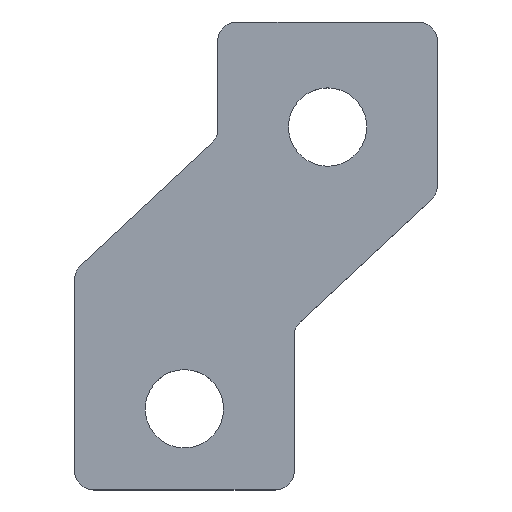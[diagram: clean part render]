
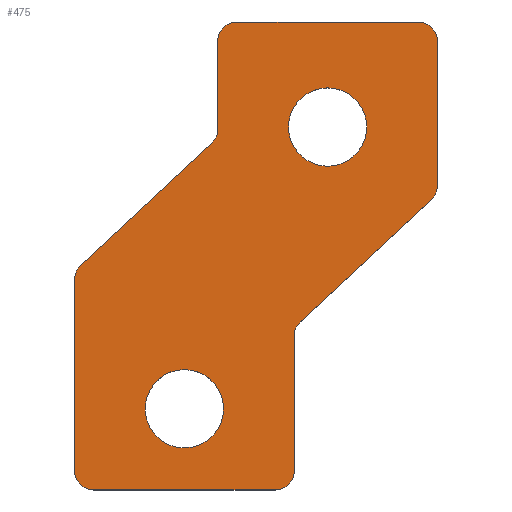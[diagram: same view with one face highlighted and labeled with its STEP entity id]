
A CAD part, top view. The second image highlights one B-rep face of the part: STEP entity #475.
In plain terms, the highlighted planar face has unit normal (0, 0, 1).
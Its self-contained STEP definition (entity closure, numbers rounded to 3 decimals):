
#92=CARTESIAN_POINT('',(0.,0.,4.));
#93=DIRECTION('',(0.,0.,-1.));
#94=DIRECTION('',(1.,0.,0.));
#95=AXIS2_PLACEMENT_3D('',#92,#93,#94);
#97=CARTESIAN_POINT('',(0.,0.,4.));
#98=DIRECTION('',(0.,0.,-1.));
#99=DIRECTION('',(-1.,0.,0.));
#100=AXIS2_PLACEMENT_3D('',#97,#98,#99);
#102=CARTESIAN_POINT('',(15.,29.5,4.));
#103=DIRECTION('',(0.,0.,-1.));
#104=DIRECTION('',(1.,0.,0.));
#105=AXIS2_PLACEMENT_3D('',#102,#103,#104);
#107=CARTESIAN_POINT('',(15.,29.5,4.));
#108=DIRECTION('',(0.,0.,-1.));
#109=DIRECTION('',(-1.,0.,0.));
#110=AXIS2_PLACEMENT_3D('',#107,#108,#109);
#112=CARTESIAN_POINT('',(24.5,23.369,4.));
#113=DIRECTION('',(0.,0.,1.));
#114=DIRECTION('',(0.682,-0.731,0.));
#115=AXIS2_PLACEMENT_3D('',#112,#113,#114);
#117=DIRECTION('',(0.731,0.682,0.));
#118=VECTOR('',#117,18.78);
#119=CARTESIAN_POINT('',(12.135,9.093,4.));
#120=LINE('',#119,#118);
#121=DIRECTION('',(0.,1.,0.));
#122=VECTOR('',#121,14.131);
#123=CARTESIAN_POINT('',(11.5,-6.5,4.));
#124=LINE('',#123,#122);
#125=CARTESIAN_POINT('',(9.5,-6.5,4.));
#126=DIRECTION('',(0.,0.,1.));
#127=DIRECTION('',(0.,-1.,0.));
#128=AXIS2_PLACEMENT_3D('',#125,#126,#127);
#130=DIRECTION('',(1.,0.,0.));
#131=VECTOR('',#130,19.);
#132=CARTESIAN_POINT('',(-9.5,-8.5,4.));
#133=LINE('',#132,#131);
#134=CARTESIAN_POINT('',(-9.5,-6.5,4.));
#135=DIRECTION('',(0.,0.,1.));
#136=DIRECTION('',(-1.,0.,0.));
#137=AXIS2_PLACEMENT_3D('',#134,#135,#136);
#139=DIRECTION('',(0.,-1.,0.));
#140=VECTOR('',#139,20.022);
#141=CARTESIAN_POINT('',(-11.5,13.522,4.));
#142=LINE('',#141,#140);
#143=CARTESIAN_POINT('',(-9.5,13.522,4.));
#144=DIRECTION('',(0.,0.,1.));
#145=DIRECTION('',(-0.682,0.731,0.));
#146=AXIS2_PLACEMENT_3D('',#143,#144,#145);
#148=DIRECTION('',(-0.731,-0.682,0.));
#149=VECTOR('',#148,18.78);
#150=CARTESIAN_POINT('',(2.865,27.798,4.));
#151=LINE('',#150,#149);
#152=DIRECTION('',(0.,-1.,0.));
#153=VECTOR('',#152,9.24);
#154=CARTESIAN_POINT('',(3.5,38.5,4.));
#155=LINE('',#154,#153);
#156=CARTESIAN_POINT('',(5.5,38.5,4.));
#157=DIRECTION('',(0.,0.,1.));
#158=DIRECTION('',(0.,1.,0.));
#159=AXIS2_PLACEMENT_3D('',#156,#157,#158);
#161=DIRECTION('',(-1.,0.,0.));
#162=VECTOR('',#161,19.);
#163=CARTESIAN_POINT('',(24.5,40.5,4.));
#164=LINE('',#163,#162);
#165=CARTESIAN_POINT('',(24.5,38.5,4.));
#166=DIRECTION('',(0.,0.,1.));
#167=DIRECTION('',(1.,0.,0.));
#168=AXIS2_PLACEMENT_3D('',#165,#166,#167);
#170=DIRECTION('',(0.,1.,0.));
#171=VECTOR('',#170,15.131);
#172=CARTESIAN_POINT('',(26.5,23.369,4.));
#173=LINE('',#172,#171);
#195=CARTESIAN_POINT('',(13.5,7.631,4.));
#196=DIRECTION('',(0.,0.,-1.));
#197=DIRECTION('',(-1.,0.,0.));
#198=AXIS2_PLACEMENT_3D('',#195,#196,#197);
#237=CARTESIAN_POINT('',(1.5,29.26,4.));
#238=DIRECTION('',(0.,0.,-1.));
#239=DIRECTION('',(1.,0.,0.));
#240=AXIS2_PLACEMENT_3D('',#237,#238,#239);
#274=CARTESIAN_POINT('',(4.1,0.,4.));
#275=CARTESIAN_POINT('',(-4.1,0.,4.));
#276=VERTEX_POINT('',#274);
#277=VERTEX_POINT('',#275);
#278=CARTESIAN_POINT('',(19.1,29.5,4.));
#279=CARTESIAN_POINT('',(10.9,29.5,4.));
#280=VERTEX_POINT('',#278);
#281=VERTEX_POINT('',#279);
#283=CARTESIAN_POINT('',(12.135,9.093,4.));
#285=VERTEX_POINT('',#283);
#287=CARTESIAN_POINT('',(11.5,7.631,4.));
#289=VERTEX_POINT('',#287);
#291=CARTESIAN_POINT('',(2.865,27.798,4.));
#293=VERTEX_POINT('',#291);
#295=CARTESIAN_POINT('',(3.5,29.26,4.));
#297=VERTEX_POINT('',#295);
#302=CARTESIAN_POINT('',(25.865,21.907,4.));
#303=VERTEX_POINT('',#302);
#304=CARTESIAN_POINT('',(26.5,23.369,4.));
#305=VERTEX_POINT('',#304);
#310=CARTESIAN_POINT('',(-10.865,14.984,4.));
#311=VERTEX_POINT('',#310);
#312=CARTESIAN_POINT('',(-11.5,13.522,4.));
#313=VERTEX_POINT('',#312);
#316=CARTESIAN_POINT('',(26.5,38.5,4.));
#317=VERTEX_POINT('',#316);
#318=CARTESIAN_POINT('',(-11.5,-6.5,4.));
#319=VERTEX_POINT('',#318);
#326=CARTESIAN_POINT('',(9.5,-8.5,4.));
#327=VERTEX_POINT('',#326);
#328=CARTESIAN_POINT('',(11.5,-6.5,4.));
#329=VERTEX_POINT('',#328);
#332=CARTESIAN_POINT('',(-9.5,-8.5,4.));
#333=VERTEX_POINT('',#332);
#336=CARTESIAN_POINT('',(24.5,40.5,4.));
#337=VERTEX_POINT('',#336);
#342=CARTESIAN_POINT('',(5.5,40.5,4.));
#343=VERTEX_POINT('',#342);
#344=CARTESIAN_POINT('',(3.5,38.5,4.));
#345=VERTEX_POINT('',#344);
#426=CARTESIAN_POINT('',(0.,0.,4.));
#427=DIRECTION('',(0.,0.,1.));
#428=DIRECTION('',(1.,0.,0.));
#429=AXIS2_PLACEMENT_3D('',#426,#427,#428);
#430=PLANE('',#429);
#432=ORIENTED_EDGE('',*,*,#431,.F.);
#434=ORIENTED_EDGE('',*,*,#433,.F.);
#436=ORIENTED_EDGE('',*,*,#435,.F.);
#438=ORIENTED_EDGE('',*,*,#437,.F.);
#440=ORIENTED_EDGE('',*,*,#439,.F.);
#442=ORIENTED_EDGE('',*,*,#441,.F.);
#444=ORIENTED_EDGE('',*,*,#443,.F.);
#446=ORIENTED_EDGE('',*,*,#445,.F.);
#448=ORIENTED_EDGE('',*,*,#447,.F.);
#450=ORIENTED_EDGE('',*,*,#449,.F.);
#452=ORIENTED_EDGE('',*,*,#451,.F.);
#454=ORIENTED_EDGE('',*,*,#453,.F.);
#456=ORIENTED_EDGE('',*,*,#455,.F.);
#458=ORIENTED_EDGE('',*,*,#457,.F.);
#460=ORIENTED_EDGE('',*,*,#459,.F.);
#462=ORIENTED_EDGE('',*,*,#461,.F.);
#463=EDGE_LOOP('',(#432,#434,#436,#438,#440,#442,#444,#446,#448,#450,#452,#454,
#456,#458,#460,#462));
#464=FACE_OUTER_BOUND('',#463,.F.);
#465=ORIENTED_EDGE('',*,*,#406,.F.);
#466=ORIENTED_EDGE('',*,*,#420,.F.);
#467=EDGE_LOOP('',(#465,#466));
#468=FACE_BOUND('',#467,.F.);
#470=ORIENTED_EDGE('',*,*,#469,.F.);
#472=ORIENTED_EDGE('',*,*,#471,.F.);
#473=EDGE_LOOP('',(#470,#472));
#474=FACE_BOUND('',#473,.F.);
#475=ADVANCED_FACE('',(#464,#468,#474),#430,.T.);
#96=CIRCLE('',#95,4.1);
#101=CIRCLE('',#100,4.1);
#106=CIRCLE('',#105,4.1);
#111=CIRCLE('',#110,4.1);
#116=CIRCLE('',#115,2.);
#129=CIRCLE('',#128,2.);
#138=CIRCLE('',#137,2.);
#147=CIRCLE('',#146,2.);
#160=CIRCLE('',#159,2.);
#169=CIRCLE('',#168,2.);
#199=CIRCLE('',#198,2.);
#241=CIRCLE('',#240,2.);
#406=EDGE_CURVE('',#276,#277,#96,.T.);
#420=EDGE_CURVE('',#277,#276,#101,.T.);
#431=EDGE_CURVE('',#303,#305,#116,.T.);
#433=EDGE_CURVE('',#285,#303,#120,.T.);
#435=EDGE_CURVE('',#289,#285,#199,.T.);
#437=EDGE_CURVE('',#329,#289,#124,.T.);
#439=EDGE_CURVE('',#327,#329,#129,.T.);
#441=EDGE_CURVE('',#333,#327,#133,.T.);
#443=EDGE_CURVE('',#319,#333,#138,.T.);
#445=EDGE_CURVE('',#313,#319,#142,.T.);
#447=EDGE_CURVE('',#311,#313,#147,.T.);
#449=EDGE_CURVE('',#293,#311,#151,.T.);
#451=EDGE_CURVE('',#297,#293,#241,.T.);
#453=EDGE_CURVE('',#345,#297,#155,.T.);
#455=EDGE_CURVE('',#343,#345,#160,.T.);
#457=EDGE_CURVE('',#337,#343,#164,.T.);
#459=EDGE_CURVE('',#317,#337,#169,.T.);
#461=EDGE_CURVE('',#305,#317,#173,.T.);
#469=EDGE_CURVE('',#280,#281,#106,.T.);
#471=EDGE_CURVE('',#281,#280,#111,.T.);
